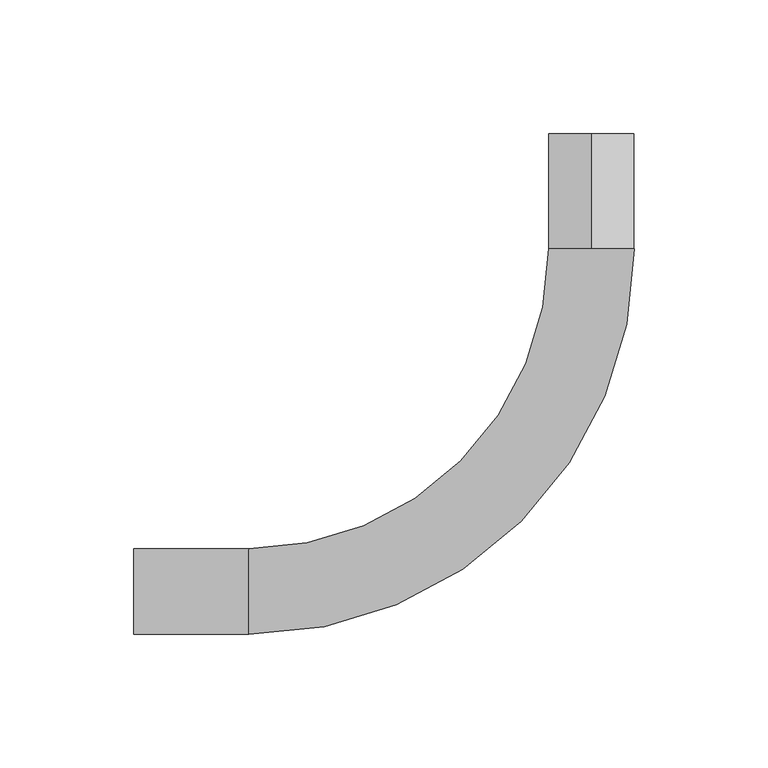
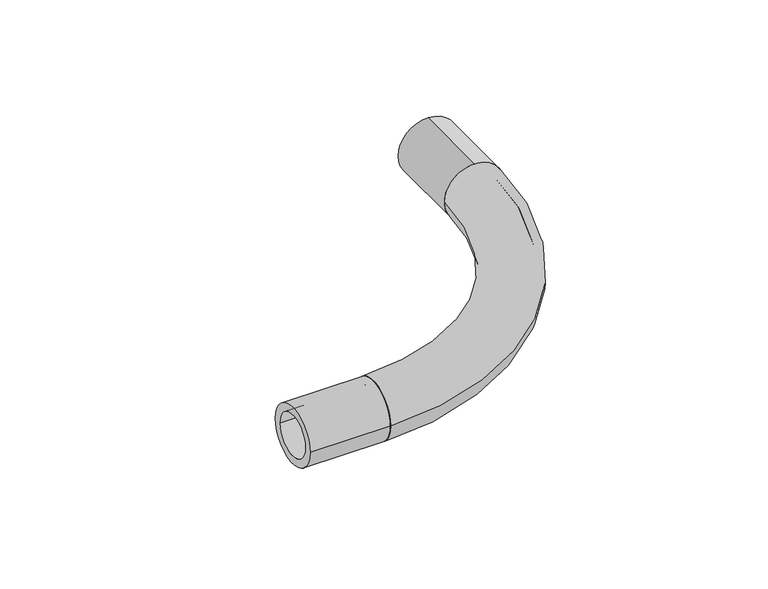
"""IFC4 building model written with IfcOpenShell, lengths in millimetres: pipe fitting geometry, REHAU_RAUTITAN_Pipe bend with former : REHAU_RAUTITAN_Pipe bend with former."""

from ifc_helpers import new_model, si_unit, point, frame, origin, origin_2d, place, context, project, spatial, circle_curve, ellipse_curve, trimmed, segment, composite_curve, outline, extrude, source, transform, mapped, element, save
from ifc_brep_helpers import plane_surface, revolved_surface, advanced_brep


def pipe_fitting_f93f5a85(model_context):
    return source(origin(), model_context, "Body", "SolidModel", [
        advanced_brep(
        [(-128.0, -16.0, 0.0), (-128.0, 16.0, 0.0), (-128.0, -11.6, 0.0), (-128.0, 11.6, 0.0), (16.0, 128.0, 0.0), (-16.0, 128.0, 0.0), (11.6, 128.0, 0.0), (-11.6, 128.0, 0.0)],
        [
            (0, 1, circle_curve(frame((-128.0, 0.0, 0.0), z_axis=(-1.0, 0.0, 0.0), x_axis=(0.0, 1.0, 0.0)), 16.0)),
            (1, 0, circle_curve(frame((-128.0, 0.0, 0.0), z_axis=(-1.0, 0.0, 0.0), x_axis=(0.0, 1.0, 0.0)), 16.0)),
            (2, 3, circle_curve(frame((-128.0, 0.0, 0.0), z_axis=(1.0, 0.0, 0.0), x_axis=(0.0, 1.0, 0.0)), 11.6)),
            (3, 2, circle_curve(frame((-128.0, 0.0, 0.0), z_axis=(1.0, 0.0, 0.0), x_axis=(0.0, 1.0, 0.0)), 11.6)),
            (4, 5, circle_curve(frame((0.0, 128.0, 0.0), z_axis=(0.0, 1.0, 0.0), x_axis=(-1.0, 0.0, 0.0)), 16.0)),
            (5, 4, circle_curve(frame((0.0, 128.0, 0.0), z_axis=(0.0, 1.0, 0.0), x_axis=(-1.0, 0.0, 0.0)), 16.0)),
            (6, 7, circle_curve(frame((0.0, 128.0, 0.0), z_axis=(0.0, -1.0, 0.0), x_axis=(-1.0, 0.0, 0.0)), 11.6)),
            (7, 6, circle_curve(frame((0.0, 128.0, 0.0), z_axis=(0.0, -1.0, 0.0), x_axis=(-1.0, 0.0, 0.0)), 11.6)),
            (5, 1, circle_curve(frame((-128.0, 128.0, 0.0), z_axis=(0.0, 0.0, -1.0), x_axis=(0.0, -1.0, 0.0)), 112.0)),
            (0, 4, circle_curve(frame((-128.0, 128.0, 0.0), z_axis=(0.0, 0.0, 1.0), x_axis=(0.0, -1.0, 0.0)), 144.0)),
            (7, 3, circle_curve(frame((-128.0, 128.0, 0.0), z_axis=(0.0, 0.0, -1.0), x_axis=(0.0, -1.0, 0.0)), 116.4)),
            (2, 6, circle_curve(frame((-128.0, 128.0, 0.0), z_axis=(0.0, 0.0, 1.0), x_axis=(0.0, -1.0, 0.0)), 139.6)),
        ],
        [
            plane_surface(frame((-128.0, 0.0, 0.0), z_axis=(-1.0, 0.0, 0.0), x_axis=(0.0, 0.0, 1.0))),
            plane_surface(frame((0.0, 128.0, 0.0), z_axis=(0.0, 1.0, 0.0), x_axis=(0.0, 0.0, 1.0))),
            revolved_surface(trimmed(ellipse_curve(frame((-128.0, 0.0, 0.0), z_axis=(-1.0, 0.0, 0.0), x_axis=(0.0, 1.0, 0.0)), 16.0, 16.0), [point((-128.0, -16.0, 0.0))], [point((-128.0, 16.0, 0.0))], True, "CARTESIAN"), (-128.0, 128.0, 0.0), (0.0, 0.0, 1.0)),
            revolved_surface(trimmed(ellipse_curve(frame((-128.0, 0.0, 0.0), z_axis=(-1.0, 0.0, 0.0), x_axis=(0.0, 1.0, 0.0)), 16.0, 16.0), [point((-128.0, 16.0, 0.0))], [point((-128.0, -16.0, 0.0))], True, "CARTESIAN"), (-128.0, 128.0, 0.0), (0.0, 0.0, 1.0)),
            revolved_surface(trimmed(ellipse_curve(frame((-128.0, 0.0, 0.0), z_axis=(1.0, 0.0, 0.0), x_axis=(0.0, 1.0, 0.0)), 11.6, 11.6), [point((-128.0, -11.6, 0.0))], [point((-128.0, 11.6, 0.0))], True, "CARTESIAN"), (-128.0, 128.0, 0.0), (0.0, 0.0, 1.0)),
            revolved_surface(trimmed(ellipse_curve(frame((-128.0, 0.0, 0.0), z_axis=(1.0, 0.0, 0.0), x_axis=(0.0, 1.0, 0.0)), 11.6, 11.6), [point((-128.0, 11.6, 0.0))], [point((-128.0, -11.6, 0.0))], True, "CARTESIAN"), (-128.0, 128.0, 0.0), (0.0, 0.0, 1.0)),
        ],
        [
            (0, [[1, 2], [3, 4]]),
            (1, [[5, 6], [7, 8]]),
            (2, [[9, -1, 10, -6]]),
            (3, [[-10, -2, -9, -5]]),
            (4, [[11, -3, 12, -8]]),
            (5, [[-12, -4, -11, -7]]),
        ],
    ),
        extrude(outline(composite_curve([segment(trimmed(circle_curve(origin_2d(), 16.0), [point((16.0, 0.0))], [point((-16.0, 0.0))], False, "CARTESIAN"), True, "CONTINUOUS"), segment(trimmed(circle_curve(origin_2d(), 16.0), [point((-16.0, 0.0))], [point((16.0, 0.0))], False, "CARTESIAN"), True, "CONTINUOUS")], self_intersect=False), holes=[composite_curve([segment(trimmed(circle_curve(origin_2d(), 11.6), [point((11.6, 0.0))], [point((-11.6, 0.0))], True, "CARTESIAN"), True, "CONTINUOUS"), segment(trimmed(circle_curve(origin_2d(), 11.6), [point((-11.6, 0.0))], [point((11.6, 0.0))], True, "CARTESIAN"), True, "CONTINUOUS")], self_intersect=False)]), frame((-171.0, 0.0, 0.0), z_axis=(1.0, 0.0, 0.0), x_axis=(0.0, 1.0, 0.0)), (0.0, 0.0, 1.0), 43.0),
        extrude(outline(composite_curve([segment(trimmed(circle_curve(origin_2d(), 16.0), [point((-16.0, 0.0))], [point((16.0, 0.0))], False, "CARTESIAN"), True, "CONTINUOUS"), segment(trimmed(circle_curve(origin_2d(), 16.0), [point((16.0, 0.0))], [point((-16.0, 0.0))], False, "CARTESIAN"), True, "CONTINUOUS")], self_intersect=False), holes=[composite_curve([segment(trimmed(circle_curve(origin_2d(), 11.6), [point((-11.6, 0.0))], [point((11.6, 0.0))], True, "CARTESIAN"), True, "CONTINUOUS"), segment(trimmed(circle_curve(origin_2d(), 11.6), [point((11.6, 0.0))], [point((-11.6, 0.0))], True, "CARTESIAN"), True, "CONTINUOUS")], self_intersect=False)]), frame((0.0, 128.0, 0.0), z_axis=(0.0, 1.0, 0.0), x_axis=(0.0, 0.0, 1.0)), (0.0, 0.0, 1.0), 43.0),
    ])


if __name__ == "__main__":
    model = new_model("IFC4")
    model_context = context("Model", 3, world=origin())
    ifc_project = project(units=[si_unit("LENGTHUNIT", "METRE", prefix="MILLI")], contexts=[model_context])
    site = spatial("IfcSite", under=ifc_project)
    building = spatial("IfcBuilding", under=site)
    placement = place(None, origin())
    pipe_fitting_shape = pipe_fitting_f93f5a85(model_context)
    element("IfcPipeFitting", 1, ObjectType="REHAU_RAUTITAN_Pipe bend with former : REHAU_RAUTITAN_Pipe bend with former", at=placement, inside=building, context=model_context, shape_type="MappedRepresentation", body=[
        mapped(pipe_fitting_shape, transform((0.0, 0.0, 0.0), x_axis=(1.0, 0.0, 0.0), y_axis=(0.0, 1.0, 0.0), z_axis=(0.0, 0.0, 1.0))),
    ])
    save(model, "model.ifc")
